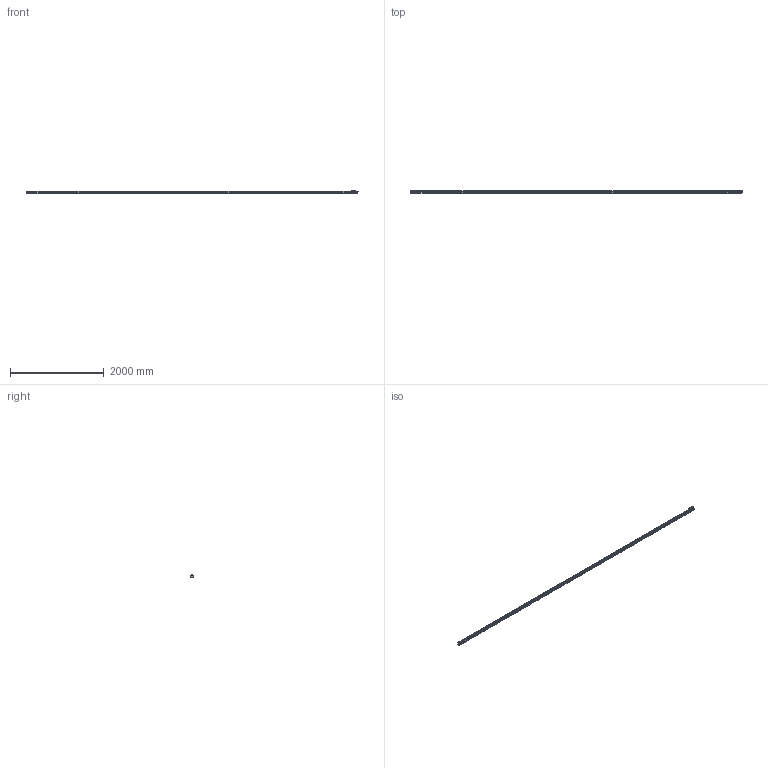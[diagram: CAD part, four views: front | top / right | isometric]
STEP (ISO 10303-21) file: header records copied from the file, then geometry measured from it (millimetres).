
FILE_DESCRIPTION(('Creo Elements/Direct Modeling STEP Export'),'2;1');
FILE_NAME('REGLA_L3_6840_T.stp','2021-02-04T13:33:50',(''),(''),'Creo Elements/Direct Modeling STEP processor for AP214 (Solid Model)','Creo Elements/Direct Modeling 19.0G 27-Nov-2017 (C) Parametric Technology GmbH','');
FILE_SCHEMA(('AUTOMOTIVE_DESIGN { 1 0 10303 214 1 1 1 1 }'));
Length unit declared in the file: millimetre
Products named in the file (3): CABEZA_L3_T_M6; PERFIL_L3_6840; MOD_L3_6840_T
Assembly tree (2 placements, depth 2):
  MOD_L3_6840_T
    PERFIL_L3_6840
    CABEZA_L3_T_M6
Bounding box: 7090 x 50 x 85 mm (x, y, z)
Volume: 18381969.3 mm3; surface area: 2057195.5 mm2
Topology: 2 solids, 2 shells, 2426 faces, 6962 edges, 4641 vertices
Faces by surface type: plane 1217, cylinder 847, cone 247, bspline 59, torus 50, extrusion 6
Entity records: 95246 total; most frequent: CARTESIAN_POINT 26538, ORIENTED_EDGE 13908, DIRECTION 12377, EDGE_CURVE 6954, VERTEX_POINT 4641, VECTOR 4379, LINE 4373, AXIS2_PLACEMENT_3D 3999
